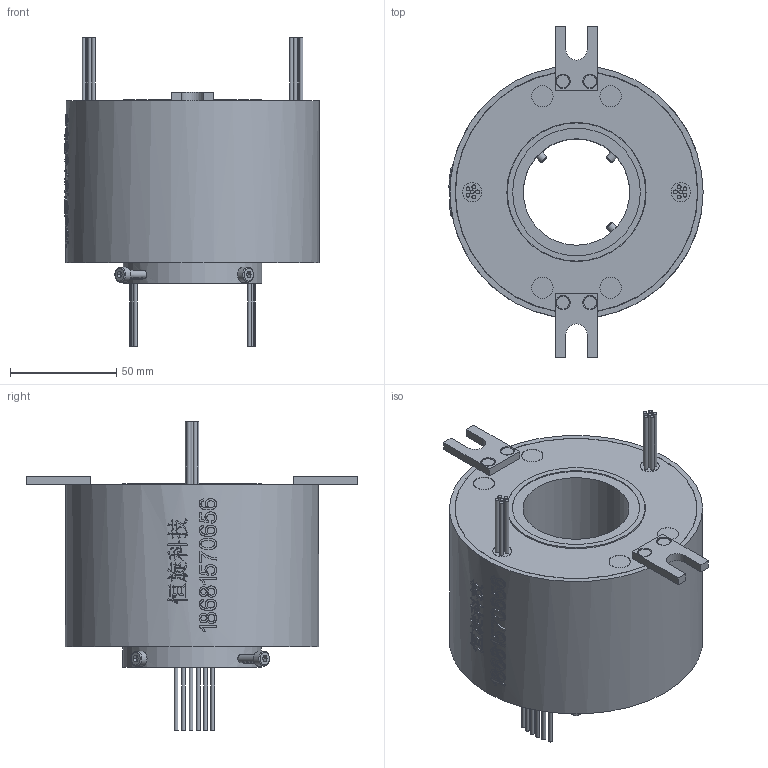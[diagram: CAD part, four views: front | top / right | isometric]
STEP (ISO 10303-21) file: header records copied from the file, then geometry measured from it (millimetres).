
FILE_DESCRIPTION(/* description */ (''),/* implementation_level */ '2;1');
FILE_NAME(/* name */ 'HD50119-1210-3D模型.stp',/* time_stamp */ '2025-09-04T09:04:34+08:00',/* author */ (''),/* organization */ (''),/* preprocessor_version */ 'ST-DEVELOPER v16.7',/* originating_system */ 'SIEMENS PLM Software NX 12.0',/* authorisation */ '');
FILE_SCHEMA (('AUTOMOTIVE_DESIGN { 1 0 10303 214 3 1 1 1 }'));
Length unit declared in the file: millimetre
Products named in the file (1): Admi3138F06C1fs5
Bounding box: 119.46 x 156 x 145.3 mm (x, y, z)
Volume: 717153.7 mm3; surface area: 72004.6 mm2
Topology: 1 solids, 5 shells, 783 faces, 2030 edges, 1351 vertices
Faces by surface type: plane 337, extrusion 313, cylinder 87, bspline 30, cone 12, torus 4
Full cylindrical faces by diameter (mm): 1.8 x24, 3 x4, 3.4 x1, 3.5 x4, 4 x7, 6 x4, 7 x4, 9 x2, 10 x4, 50 x1, 60 x1, 65 x2, 65.4 x1, 113.8 x2, 114 x2, 119 x1
Entity records: 29459 total; most frequent: CARTESIAN_POINT 13133, ORIENTED_EDGE 3844, DIRECTION 2105, EDGE_CURVE 1922, B_SPLINE_CURVE_WITH_KNOTS 1644, VERTEX_POINT 1323, EDGE_LOOP 971, ADVANCED_FACE 783
